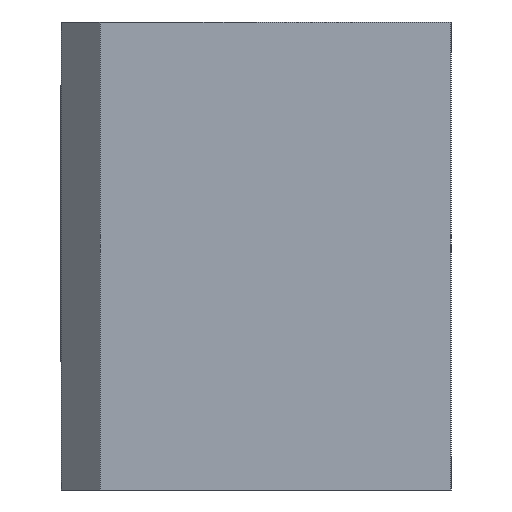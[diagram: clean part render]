
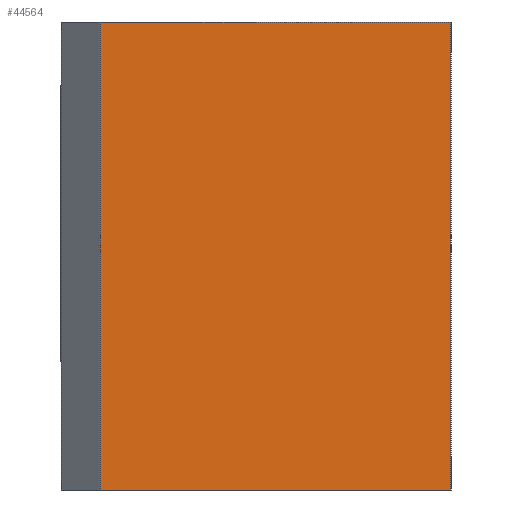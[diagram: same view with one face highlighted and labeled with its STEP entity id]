
A CAD part, left-side view. The second image highlights one B-rep face of the part: STEP entity #44564.
In plain terms, the highlighted planar face has unit normal (-1, 0, 0).
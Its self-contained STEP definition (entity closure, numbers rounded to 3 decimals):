
#4437 = EDGE_CURVE ( 'NONE', #8662, #9554, #21977, .T. ) ;
#5931 = EDGE_CURVE ( 'NONE', #15813, #28937, #42896, .T. ) ;
#8662 = VERTEX_POINT ( 'NONE', #20399 ) ;
#9554 = VERTEX_POINT ( 'NONE', #31762 ) ;
#10357 = VECTOR ( 'NONE', #21841, 1000. ) ;
#10523 = CARTESIAN_POINT ( 'NONE',  ( 0., 0., 18. ) ) ;
#13830 = ORIENTED_EDGE ( 'NONE', *, *, #4437, .F. ) ;
#14920 = DIRECTION ( 'NONE',  ( 1., 0., 0. ) ) ;
#15813 = VERTEX_POINT ( 'NONE', #19596 ) ;
#16562 = DIRECTION ( 'NONE',  ( 0., 1., 0. ) ) ;
#17390 = AXIS2_PLACEMENT_3D ( 'NONE', #51058, #14920, #50038 ) ;
#17571 = EDGE_CURVE ( 'NONE', #28937, #8662, #25890, .T. ) ;
#18335 = DIRECTION ( 'NONE',  ( 0., 0., -1. ) ) ;
#19335 = FACE_OUTER_BOUND ( 'NONE', #30608, .T. ) ;
#19596 = CARTESIAN_POINT ( 'NONE',  ( 0., 27., 0. ) ) ;
#19620 = EDGE_CURVE ( 'NONE', #9554, #15813, #40744, .T. ) ;
#20399 = CARTESIAN_POINT ( 'NONE',  ( 0., 0., 36. ) ) ;
#20470 = CARTESIAN_POINT ( 'NONE',  ( 0., 15., 0. ) ) ;
#20563 = ORIENTED_EDGE ( 'NONE', *, *, #19620, .F. ) ;
#21841 = DIRECTION ( 'NONE',  ( 0., 0., 1. ) ) ;
#21977 = LINE ( 'NONE', #10523, #28698 ) ;
#25639 = CARTESIAN_POINT ( 'NONE',  ( 0., 15., 36. ) ) ;
#25890 = LINE ( 'NONE', #25639, #47749 ) ;
#26006 = CARTESIAN_POINT ( 'NONE',  ( 0., 27., 18. ) ) ;
#26166 = CARTESIAN_POINT ( 'NONE',  ( 0., 27., 36. ) ) ;
#28698 = VECTOR ( 'NONE', #18335, 1000. ) ;
#28877 = ORIENTED_EDGE ( 'NONE', *, *, #5931, .F. ) ;
#28937 = VERTEX_POINT ( 'NONE', #26166 ) ;
#30608 = EDGE_LOOP ( 'NONE', ( #28877, #20563, #13830, #37423 ) ) ;
#31762 = CARTESIAN_POINT ( 'NONE',  ( 0., 0., 0. ) ) ;
#32056 = VECTOR ( 'NONE', #16562, 1000. ) ;
#33701 = DIRECTION ( 'NONE',  ( 0., -1., 0. ) ) ;
#37423 = ORIENTED_EDGE ( 'NONE', *, *, #17571, .F. ) ;
#38336 = PLANE ( 'NONE',  #17390 ) ;
#40744 = LINE ( 'NONE', #20470, #32056 ) ;
#42896 = LINE ( 'NONE', #26006, #10357 ) ;
#44564 = ADVANCED_FACE ( 'NONE', ( #19335 ), #38336, .F. ) ;
#47749 = VECTOR ( 'NONE', #33701, 1000. ) ;
#50038 = DIRECTION ( 'NONE',  ( 0., 1., 0. ) ) ;
#51058 = CARTESIAN_POINT ( 'NONE',  ( 0., 15., 18. ) ) ;
